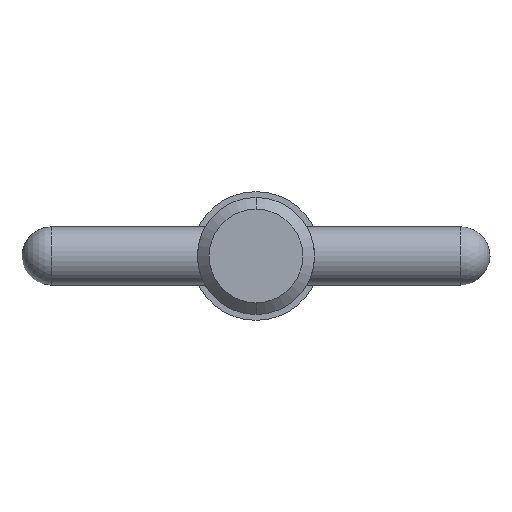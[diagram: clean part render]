
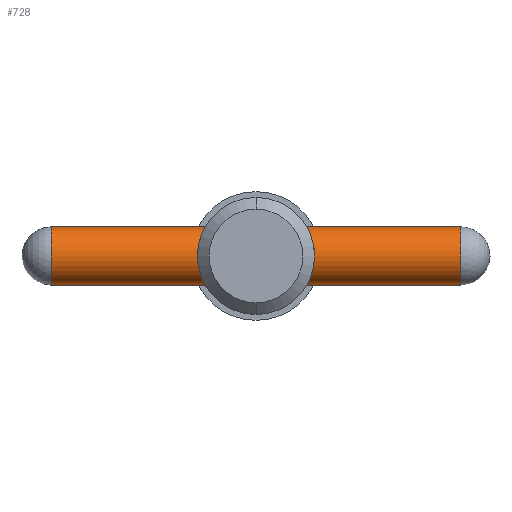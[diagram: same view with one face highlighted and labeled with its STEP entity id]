
A CAD part, left-side view. The second image highlights one B-rep face of the part: STEP entity #728.
In plain terms, the highlighted cylindrical face has radius 1.585 mm (diameter 3.17 mm), a partial arc.
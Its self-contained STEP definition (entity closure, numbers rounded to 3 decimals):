
#20 = CARTESIAN_POINT ( 'NONE',  ( 0., 12.7, 1.585 ) ) ;
#33 = CARTESIAN_POINT ( 'NONE',  ( 0., 11.115, 0. ) ) ;
#43 = EDGE_CURVE ( 'NONE', #209, #851, #973, .T. ) ;
#105 = DIRECTION ( 'NONE',  ( 0., 0., -1. ) ) ;
#127 = DIRECTION ( 'NONE',  ( 0., 1., 0. ) ) ;
#164 = CYLINDRICAL_SURFACE ( 'NONE', #961, 1.585 ) ;
#176 = AXIS2_PLACEMENT_3D ( 'NONE', #432, #127, #664 ) ;
#178 = VECTOR ( 'NONE', #710, 1000. ) ;
#181 = AXIS2_PLACEMENT_3D ( 'NONE', #33, #256, #267 ) ;
#182 = CARTESIAN_POINT ( 'NONE',  ( 0., 11.115, -1.585 ) ) ;
#209 = VERTEX_POINT ( 'NONE', #944 ) ;
#232 = LINE ( 'NONE', #20, #178 ) ;
#256 = DIRECTION ( 'NONE',  ( 0., -1., 0. ) ) ;
#267 = DIRECTION ( 'NONE',  ( 0., 0., -1. ) ) ;
#270 = DIRECTION ( 'NONE',  ( 0., -1., 0. ) ) ;
#304 = EDGE_LOOP ( 'NONE', ( #876, #459, #644, #931 ) ) ;
#317 = CARTESIAN_POINT ( 'NONE',  ( 0., 12.7, 0. ) ) ;
#352 = CARTESIAN_POINT ( 'NONE',  ( 0., 11.115, 1.585 ) ) ;
#432 = CARTESIAN_POINT ( 'NONE',  ( 0., -11.115, 0. ) ) ;
#456 = VERTEX_POINT ( 'NONE', #352 ) ;
#459 = ORIENTED_EDGE ( 'NONE', *, *, #972, .T. ) ;
#460 = DIRECTION ( 'NONE',  ( 0., -1., 0. ) ) ;
#488 = CARTESIAN_POINT ( 'NONE',  ( 0., 12.7, -1.585 ) ) ;
#547 = EDGE_CURVE ( 'NONE', #693, #209, #981, .T. ) ;
#592 = CIRCLE ( 'NONE', #181, 1.585 ) ;
#644 = ORIENTED_EDGE ( 'NONE', *, *, #547, .T. ) ;
#664 = DIRECTION ( 'NONE',  ( 0., 0., -1. ) ) ;
#690 = EDGE_CURVE ( 'NONE', #456, #851, #232, .T. ) ;
#693 = VERTEX_POINT ( 'NONE', #182 ) ;
#710 = DIRECTION ( 'NONE',  ( 0., -1., 0. ) ) ;
#728 = ADVANCED_FACE ( 'NONE', ( #953 ), #164, .T. ) ;
#808 = VECTOR ( 'NONE', #270, 1000. ) ;
#851 = VERTEX_POINT ( 'NONE', #895 ) ;
#876 = ORIENTED_EDGE ( 'NONE', *, *, #690, .F. ) ;
#895 = CARTESIAN_POINT ( 'NONE',  ( 0., -11.115, 1.585 ) ) ;
#931 = ORIENTED_EDGE ( 'NONE', *, *, #43, .T. ) ;
#944 = CARTESIAN_POINT ( 'NONE',  ( 0., -11.115, -1.585 ) ) ;
#953 = FACE_OUTER_BOUND ( 'NONE', #304, .T. ) ;
#961 = AXIS2_PLACEMENT_3D ( 'NONE', #317, #460, #105 ) ;
#972 = EDGE_CURVE ( 'NONE', #456, #693, #592, .T. ) ;
#973 = CIRCLE ( 'NONE', #176, 1.585 ) ;
#981 = LINE ( 'NONE', #488, #808 ) ;
